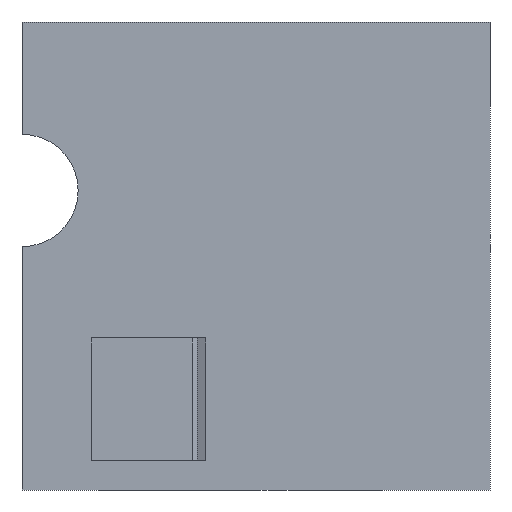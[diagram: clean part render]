
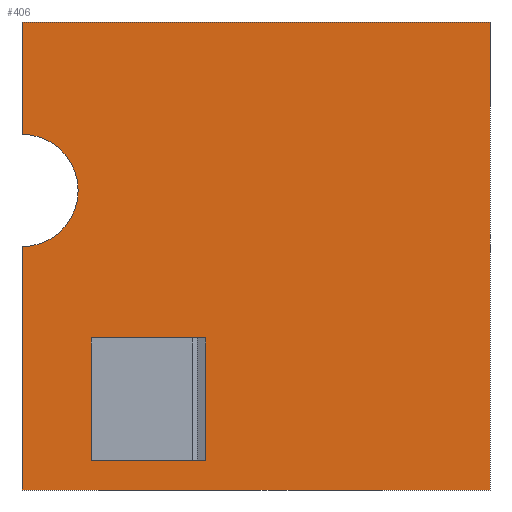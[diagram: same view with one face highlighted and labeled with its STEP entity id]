
A CAD part, front view. The second image highlights one B-rep face of the part: STEP entity #406.
In plain terms, the highlighted planar face has unit normal (0, -1, 0).
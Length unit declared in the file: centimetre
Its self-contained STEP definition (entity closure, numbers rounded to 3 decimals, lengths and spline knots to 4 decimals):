
#6 = FACE_BOUND ( 'NONE', #880, .T. ) ;
#13 = ORIENTED_EDGE ( 'NONE', *, *, #121, .F. ) ;
#29 = CARTESIAN_POINT ( 'NONE',  ( 392.2897, 0., 62.1782 ) ) ;
#41 = VERTEX_POINT ( 'NONE', #1136 ) ;
#42 = DIRECTION ( 'NONE',  ( 0., 0., 1. ) ) ;
#67 = VECTOR ( 'NONE', #836, 100. ) ;
#74 = CARTESIAN_POINT ( 'NONE',  ( 1000., 0., 1000. ) ) ;
#75 = ORIENTED_EDGE ( 'NONE', *, *, #821, .F. ) ;
#118 = EDGE_LOOP ( 'NONE', ( #509, #302, #1061, #146, #378, #584 ) ) ;
#121 = EDGE_CURVE ( 'NONE', #212, #801, #766, .T. ) ;
#146 = ORIENTED_EDGE ( 'NONE', *, *, #152, .T. ) ;
#147 = CARTESIAN_POINT ( 'NONE',  ( 0., 0., 0. ) ) ;
#152 = EDGE_CURVE ( 'NONE', #260, #714, #490, .T. ) ;
#170 = DIRECTION ( 'NONE',  ( 0., 1., 0. ) ) ;
#174 = LINE ( 'NONE', #909, #848 ) ;
#191 = LINE ( 'NONE', #1022, #884 ) ;
#196 = DIRECTION ( 'NONE',  ( 0., -1., 0. ) ) ;
#212 = VERTEX_POINT ( 'NONE', #837 ) ;
#245 = LINE ( 'NONE', #799, #396 ) ;
#260 = VERTEX_POINT ( 'NONE', #147 ) ;
#271 = PLANE ( 'NONE',  #1016 ) ;
#276 = LINE ( 'NONE', #551, #541 ) ;
#294 = VECTOR ( 'NONE', #312, 100. ) ;
#302 = ORIENTED_EDGE ( 'NONE', *, *, #533, .F. ) ;
#312 = DIRECTION ( 'NONE',  ( 1., 0., 0. ) ) ;
#318 = EDGE_CURVE ( 'NONE', #801, #1009, #245, .T. ) ;
#338 = CARTESIAN_POINT ( 'NONE',  ( 1000., 0., 0. ) ) ;
#353 = DIRECTION ( 'NONE',  ( 0., 0., -1. ) ) ;
#374 = CIRCLE ( 'NONE', #425, 120.0219 ) ;
#378 = ORIENTED_EDGE ( 'NONE', *, *, #721, .F. ) ;
#396 = VECTOR ( 'NONE', #1138, 100. ) ;
#406 = ADVANCED_FACE ( 'NONE', ( #6, #1086 ), #271, .F. ) ;
#425 = AXIS2_PLACEMENT_3D ( 'NONE', #745, #196, #464 ) ;
#464 = DIRECTION ( 'NONE',  ( 0., 0., -1. ) ) ;
#470 = VECTOR ( 'NONE', #1121, 100. ) ;
#490 = LINE ( 'NONE', #585, #294 ) ;
#496 = CARTESIAN_POINT ( 'NONE',  ( 1000., 0., 1000. ) ) ;
#509 = ORIENTED_EDGE ( 'NONE', *, *, #907, .T. ) ;
#523 = DIRECTION ( 'NONE',  ( 0., 0., -1. ) ) ;
#533 = EDGE_CURVE ( 'NONE', #779, #41, #374, .T. ) ;
#541 = VECTOR ( 'NONE', #353, 100. ) ;
#551 = CARTESIAN_POINT ( 'NONE',  ( 147.913, 0., 62.1782 ) ) ;
#576 = LINE ( 'NONE', #1019, #67 ) ;
#584 = ORIENTED_EDGE ( 'NONE', *, *, #1146, .F. ) ;
#585 = CARTESIAN_POINT ( 'NONE',  ( 0., 0., 0. ) ) ;
#639 = CARTESIAN_POINT ( 'NONE',  ( 0., 0., 1000. ) ) ;
#660 = CARTESIAN_POINT ( 'NONE',  ( 147.913, 0., 324.8559 ) ) ;
#667 = DIRECTION ( 'NONE',  ( 1., 0., 0. ) ) ;
#678 = EDGE_CURVE ( 'NONE', #779, #260, #1157, .T. ) ;
#687 = ORIENTED_EDGE ( 'NONE', *, *, #954, .F. ) ;
#706 = LINE ( 'NONE', #496, #864 ) ;
#714 = VERTEX_POINT ( 'NONE', #338 ) ;
#721 = EDGE_CURVE ( 'NONE', #1119, #714, #706, .T. ) ;
#745 = CARTESIAN_POINT ( 'NONE',  ( 0., 0., 639.9565 ) ) ;
#746 = CARTESIAN_POINT ( 'NONE',  ( 147.913, 0., 62.1782 ) ) ;
#761 = CARTESIAN_POINT ( 'NONE',  ( 0., 0., 1000. ) ) ;
#766 = LINE ( 'NONE', #29, #1162 ) ;
#779 = VERTEX_POINT ( 'NONE', #1090 ) ;
#795 = CARTESIAN_POINT ( 'NONE',  ( 0., 0., 1000. ) ) ;
#799 = CARTESIAN_POINT ( 'NONE',  ( 147.913, 0., 324.8559 ) ) ;
#801 = VERTEX_POINT ( 'NONE', #1163 ) ;
#805 = DIRECTION ( 'NONE',  ( 0., 0., 1. ) ) ;
#821 = EDGE_CURVE ( 'NONE', #1009, #1067, #276, .T. ) ;
#836 = DIRECTION ( 'NONE',  ( 0., 0., -1. ) ) ;
#837 = CARTESIAN_POINT ( 'NONE',  ( 392.2897, 0., 62.1782 ) ) ;
#848 = VECTOR ( 'NONE', #894, 100. ) ;
#864 = VECTOR ( 'NONE', #523, 100. ) ;
#880 = EDGE_LOOP ( 'NONE', ( #687, #75, #1151, #13 ) ) ;
#884 = VECTOR ( 'NONE', #667, 100. ) ;
#894 = DIRECTION ( 'NONE',  ( 1., 0., 0. ) ) ;
#898 = VERTEX_POINT ( 'NONE', #761 ) ;
#907 = EDGE_CURVE ( 'NONE', #898, #41, #576, .T. ) ;
#909 = CARTESIAN_POINT ( 'NONE',  ( 0., 0., 1000. ) ) ;
#954 = EDGE_CURVE ( 'NONE', #1067, #212, #191, .T. ) ;
#1009 = VERTEX_POINT ( 'NONE', #660 ) ;
#1016 = AXIS2_PLACEMENT_3D ( 'NONE', #639, #170, #805 ) ;
#1019 = CARTESIAN_POINT ( 'NONE',  ( 0., 0., 1000. ) ) ;
#1022 = CARTESIAN_POINT ( 'NONE',  ( 147.913, 0., 62.1782 ) ) ;
#1061 = ORIENTED_EDGE ( 'NONE', *, *, #678, .T. ) ;
#1067 = VERTEX_POINT ( 'NONE', #746 ) ;
#1086 = FACE_OUTER_BOUND ( 'NONE', #118, .T. ) ;
#1090 = CARTESIAN_POINT ( 'NONE',  ( 0., 0., 519.9346 ) ) ;
#1119 = VERTEX_POINT ( 'NONE', #74 ) ;
#1121 = DIRECTION ( 'NONE',  ( 0., 0., -1. ) ) ;
#1136 = CARTESIAN_POINT ( 'NONE',  ( 0., 0., 759.9784 ) ) ;
#1138 = DIRECTION ( 'NONE',  ( -1., 0., 0. ) ) ;
#1146 = EDGE_CURVE ( 'NONE', #898, #1119, #174, .T. ) ;
#1151 = ORIENTED_EDGE ( 'NONE', *, *, #318, .F. ) ;
#1157 = LINE ( 'NONE', #795, #470 ) ;
#1162 = VECTOR ( 'NONE', #42, 100. ) ;
#1163 = CARTESIAN_POINT ( 'NONE',  ( 392.2897, 0., 324.8559 ) ) ;
